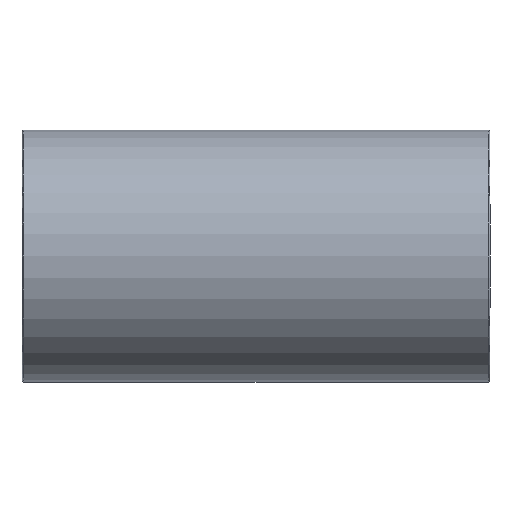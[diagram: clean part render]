
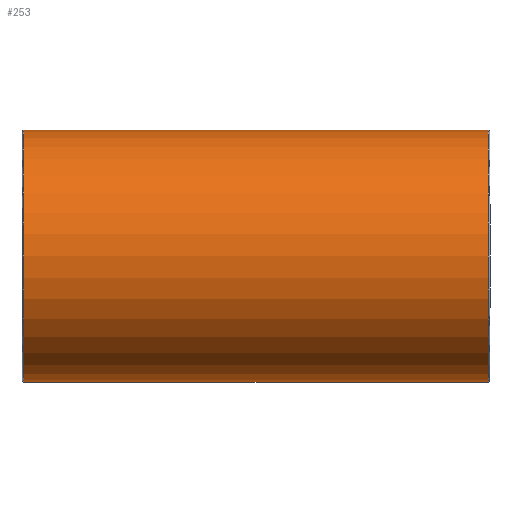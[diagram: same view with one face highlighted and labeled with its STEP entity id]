
A CAD part, front view. The second image highlights one B-rep face of the part: STEP entity #253.
In plain terms, the highlighted cylindrical face has radius 21 mm (diameter 42 mm), a full revolution.
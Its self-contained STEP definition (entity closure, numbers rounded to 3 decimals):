
#30=FACE_BOUND('',#98,.T.);
#31=FACE_BOUND('',#99,.T.);
#50=CIRCLE('',#278,21.);
#51=CIRCLE('',#279,21.);
#68=CYLINDRICAL_SURFACE('',#277,21.);
#77=FACE_OUTER_BOUND('',#97,.T.);
#97=EDGE_LOOP('',(#197));
#98=EDGE_LOOP('',(#198,#199));
#99=EDGE_LOOP('',(#200));
#135=ELLIPSE('',#273,30.788,21.);
#137=ELLIPSE('',#275,30.788,21.);
#143=VERTEX_POINT('',#460);
#144=VERTEX_POINT('',#461);
#145=VERTEX_POINT('',#517);
#146=VERTEX_POINT('',#519);
#165=EDGE_CURVE('',#143,#144,#135,.T.);
#167=EDGE_CURVE('',#144,#143,#137,.T.);
#169=EDGE_CURVE('',#145,#145,#50,.T.);
#170=EDGE_CURVE('',#146,#146,#51,.T.);
#197=ORIENTED_EDGE('',*,*,#169,.F.);
#198=ORIENTED_EDGE('',*,*,#167,.F.);
#199=ORIENTED_EDGE('',*,*,#165,.F.);
#200=ORIENTED_EDGE('',*,*,#170,.F.);
#253=ADVANCED_FACE('',(#77,#30,#31),#68,.T.);
#273=AXIS2_PLACEMENT_3D('',#462,#319,#320);
#275=AXIS2_PLACEMENT_3D('',#514,#323,#324);
#277=AXIS2_PLACEMENT_3D('',#516,#327,#328);
#278=AXIS2_PLACEMENT_3D('',#518,#329,#330);
#279=AXIS2_PLACEMENT_3D('',#520,#331,#332);
#319=DIRECTION('center_axis',(-0.682,0.731,0.));
#320=DIRECTION('ref_axis',(0.731,0.682,0.));
#323=DIRECTION('center_axis',(0.682,0.731,0.));
#324=DIRECTION('ref_axis',(-0.731,0.682,0.));
#327=DIRECTION('center_axis',(1.,0.,0.));
#328=DIRECTION('ref_axis',(0.,1.,0.));
#329=DIRECTION('center_axis',(-1.,0.,0.));
#330=DIRECTION('ref_axis',(0.,-1.,0.));
#331=DIRECTION('center_axis',(1.,0.,0.));
#332=DIRECTION('ref_axis',(0.,-1.,0.));
#460=CARTESIAN_POINT('',(0.,0.,21.));
#461=CARTESIAN_POINT('',(0.,0.,-21.));
#462=CARTESIAN_POINT('Origin',(0.,0.,0.));
#514=CARTESIAN_POINT('Origin',(0.,0.,0.));
#516=CARTESIAN_POINT('Origin',(0.,0.,
0.));
#517=CARTESIAN_POINT('',(-38.697,21.,0.));
#518=CARTESIAN_POINT('Origin',(-38.697,0.,0.));
#519=CARTESIAN_POINT('',(38.697,21.,0.));
#520=CARTESIAN_POINT('Origin',(38.697,0.,0.));
